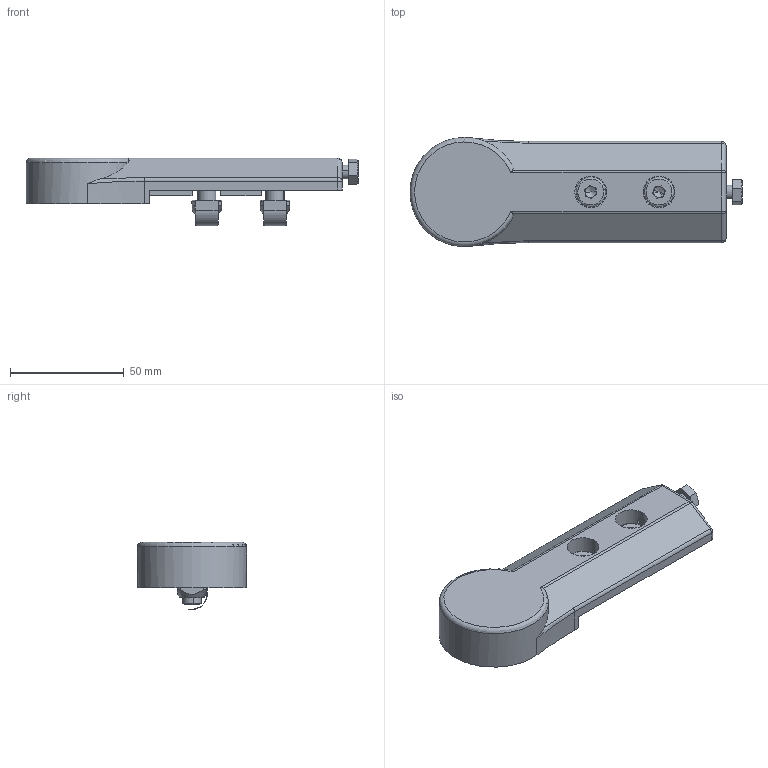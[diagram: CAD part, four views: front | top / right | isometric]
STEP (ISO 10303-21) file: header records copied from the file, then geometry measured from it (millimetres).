
FILE_DESCRIPTION (( 'STEP AP214' ), '1' );
FILE_NAME ('1.8115 Kuljetinhihnalaakeri 45_25 Gen2.STEP', '2026-03-19T07:48:18', ( '' ), ( '' ), 'SwSTEP 2.0', 'SolidWorks 2025', '' );
FILE_SCHEMA (( 'AUTOMOTIVE_DESIGN' ));
Length unit declared in the file: millimetre
Products named in the file (6): 2203-2RS; 1.2083 Kuusiokoloruuvi M8x16; 1.2014 Neliömutteri M8 kiinnityslevyllä; 1.2161 kuusiokantaruuvi M6x25; 1.8115 Kuljetinhihnalaakeri 45_25 Gen2; L00117 KHL 45_25 Gen2
Assembly tree (7 placements, depth 2):
  1.8115 Kuljetinhihnalaakeri 45_25 Gen2
    1.2083 Kuusiokoloruuvi M8x16  x2
    1.2161 kuusiokantaruuvi M6x25
    1.2014 Neliömutteri M8 kiinnityslevyllä  x2
    L00117 KHL 45_25 Gen2
    2203-2RS
Bounding box: 146 x 48 x 29.65 mm (x, y, z)
Volume: 65199.4 mm3; surface area: 29546.8 mm2
Topology: 6 solids, 8 shells, 232 faces, 543 edges, 332 vertices
Faces by surface type: plane 111, cylinder 56, cone 38, bspline 14, torus 9, sphere 4
Entity records: 6696 total; most frequent: CARTESIAN_POINT 1385, DIRECTION 826, ORIENTED_EDGE 782, EDGE_CURVE 395, AXIS2_PLACEMENT_3D 319, VERTEX_POINT 244, EDGE_LOOP 193, LINE 188
